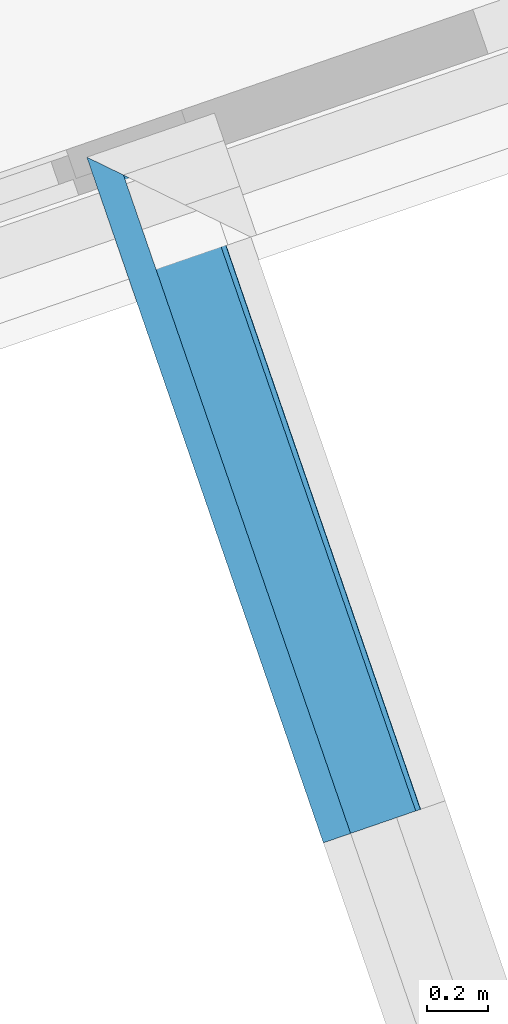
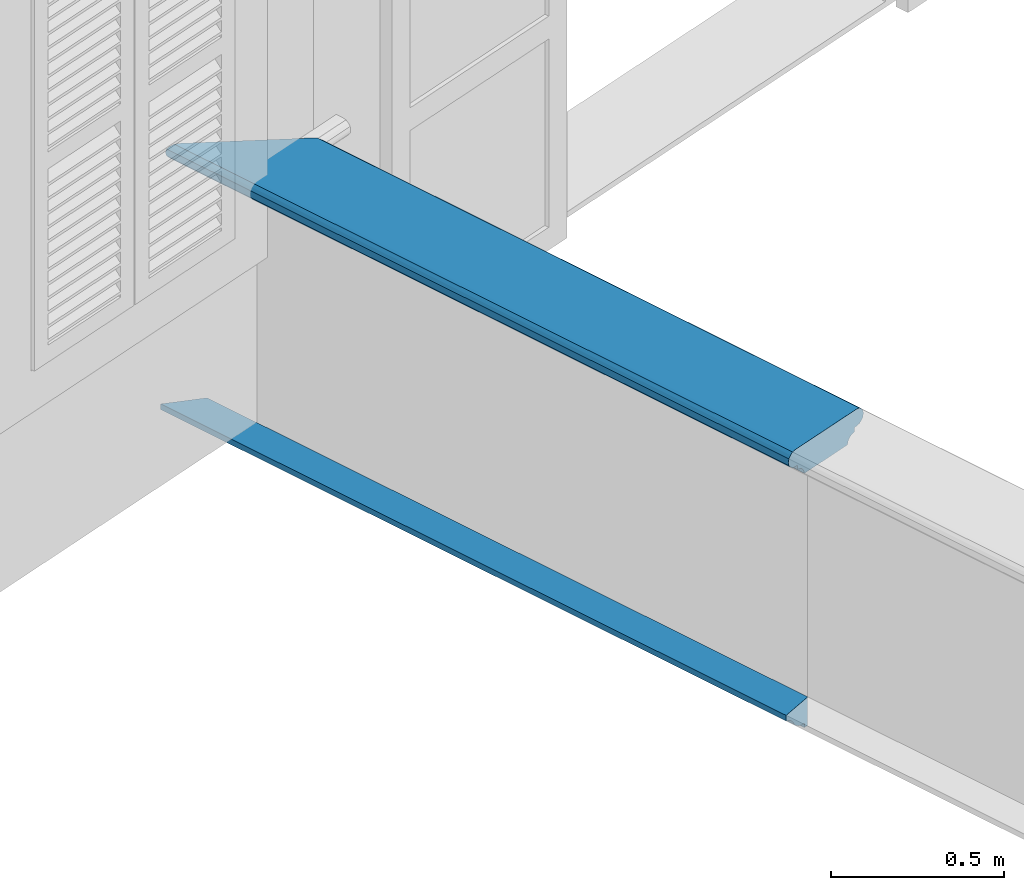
# One storey, part 12 of 16: 2 walls.
"""IFC4 building model written with IfcOpenShell, lengths in metres."""

import ifcopenshell
import ifcopenshell.guid

model = None  # the IFC model being written
_history = None  # IfcOwnerHistory: only IFC2X3 demands one
_inside = {}  # id of a spatial element -> (the spatial element, [elements in it])
_under = {}  # id of a project, library or spatial element -> (it, [spatial elements below it])
_declared = {}  # id of a project -> (the project, [libraries it declares])
_typed = {}  # id of a type object -> (the type object, [elements of that type])
_made_of = {}  # id of a material, layer set ... -> (it, [elements and type objects made of it])


def new_model(schema):
    """Start an empty IFC model of exactly this schema.

    Asked for "IFC4X3", IfcOpenShell would pick the latest addendum, in which some entities
    have other attributes; the version numbers below select the first issue.
    IFC2X3 requires an IfcOwnerHistory on every rooted entity: one is made here for all.
    """
    global model, _history
    if schema == "IFC4X3":
        model = ifcopenshell.file(schema_version=(4, 3, 0, 0))
    else:
        model = ifcopenshell.file(schema=schema)
    _inside.clear()
    _under.clear()
    _declared.clear()
    _typed.clear()
    _made_of.clear()
    _history = None
    if model.schema == "IFC2X3":
        org = make("IfcOrganization", Name="unknown")
        user = make(
            "IfcPersonAndOrganization",
            ThePerson=make("IfcPerson", FamilyName="unknown"),
            TheOrganization=org,
        )
        app = make(
            "IfcApplication",
            ApplicationDeveloper=org,
            Version="unknown",
            ApplicationFullName="unknown",
            ApplicationIdentifier="unknown",
        )
        _history = make(
            "IfcOwnerHistory",
            OwningUser=user,
            OwningApplication=app,
            ChangeAction="ADDED",
            CreationDate=0,
        )
    return model


def make(cls, **values):
    """One entity of the class cls with the attributes given. An attribute that is None is left unset."""
    return model.create_entity(
        cls, **{name: value for name, value in values.items() if value is not None}
    )


def rooted(cls, **values):
    """An entity with a GlobalId (a new one), such as an element, a storey or a relation."""
    return make(cls, GlobalId=ifcopenshell.guid.new(), OwnerHistory=_history, **values)


def si_unit(unit_type, name, prefix=None):
    """IfcSIUnit, for example si_unit("LENGTHUNIT", "METRE", prefix="MILLI")."""
    return make("IfcSIUnit", UnitType=unit_type, Prefix=prefix, Name=name)


def assignment(units):
    """IfcUnitAssignment: the units of a project."""
    return None if units is None else make("IfcUnitAssignment", Units=units)


def point(xyz):
    """IfcCartesianPoint."""
    return None if xyz is None else make("IfcCartesianPoint", Coordinates=xyz)


def direction(xyz):
    """IfcDirection."""
    return None if xyz is None else make("IfcDirection", DirectionRatios=xyz)


def frame(location, z_axis=None, x_axis=None):
    """IfcAxis2Placement3D, a coordinate frame: its origin and axes. An axis left out is left unset."""
    return make(
        "IfcAxis2Placement3D",
        Location=point(location),
        Axis=direction(z_axis),
        RefDirection=direction(x_axis),
    )


def origin_with_axes():
    """The frame at (0, 0, 0) with the z axis (0, 0, 1) and the x axis (1, 0, 0) written out."""
    return frame((0.0, 0.0, 0.0), z_axis=(0.0, 0.0, 1.0), x_axis=(1.0, 0.0, 0.0))


def place(relative_to, where):
    """IfcLocalPlacement: puts the frame where relative to a parent placement (None: the world)."""
    return make(
        "IfcLocalPlacement", PlacementRelTo=relative_to, RelativePlacement=where
    )


def context(
    kind, dimensions, precision=None, world=None, true_north=None, identifier=None
):
    """IfcGeometricRepresentationContext, for example the 3D "Model" context."""
    return make(
        "IfcGeometricRepresentationContext",
        ContextIdentifier=identifier,
        ContextType=kind,
        CoordinateSpaceDimension=dimensions,
        Precision=precision,
        WorldCoordinateSystem=world,
        TrueNorth=true_north,
    )


def subcontext(parent, identifier, kind, view, scale=None):
    """IfcGeometricRepresentationSubContext, for example "Body" below "Model"."""
    return make(
        "IfcGeometricRepresentationSubContext",
        ContextIdentifier=identifier,
        ContextType=kind,
        ParentContext=parent,
        TargetScale=scale,
        TargetView=view,
    )


def project(units=None, contexts=None):
    """IfcProject with its units and contexts."""
    return rooted(
        "IfcProject",
        Name="project",
        RepresentationContexts=contexts,
        UnitsInContext=assignment(units),
    )


def spatial(cls, under=None, at=None, **own):
    """A site, building, storey or space (cls), placed at a placement, below another one or the project."""
    s = rooted(cls, ObjectPlacement=at, **own)
    if under is not None:
        _under.setdefault(under.id(), (under, []))[1].append(s)
    return s


def polyline(points):
    """IfcPolyline through the points."""
    return make("IfcPolyline", Points=[point(p) for p in points])


def outline(outer, holes=None, kind="AREA"):
    """IfcArbitraryClosedProfileDef: a profile drawn as a closed curve; with holes, ...WithVoids."""
    if holes is None:
        return make("IfcArbitraryClosedProfileDef", ProfileType=kind, OuterCurve=outer)
    return make(
        "IfcArbitraryProfileDefWithVoids",
        ProfileType=kind,
        OuterCurve=outer,
        InnerCurves=holes,
    )


def extrude(swept, where, along, depth):
    """IfcExtrudedAreaSolid: the profile swept, set in the frame where, extruded along a direction by depth."""
    return make(
        "IfcExtrudedAreaSolid",
        SweptArea=swept,
        Position=where,
        ExtrudedDirection=direction(along),
        Depth=depth,
    )


def clip(a, b, op="DIFFERENCE"):
    """IfcBooleanClippingResult: the solid a cut by the half space b."""
    return make(
        "IfcBooleanClippingResult", Operator=op, FirstOperand=a, SecondOperand=b
    )


def halfspace(plane, agree):
    """IfcHalfSpaceSolid: all space on one side of the plane z = 0 of the frame plane."""
    return make(
        "IfcHalfSpaceSolid",
        BaseSurface=make("IfcPlane", Position=plane),
        AgreementFlag=agree,
    )


def shape(context_of_items, identifier, shape_type, items):
    """IfcShapeRepresentation: the items that make up one representation, for example the "Body"."""
    return make(
        "IfcShapeRepresentation",
        ContextOfItems=context_of_items,
        RepresentationIdentifier=identifier,
        RepresentationType=shape_type,
        Items=items,
    )


def material_profile(
    of_material, cross_section, Name=None, Category=None, Priority=None
):
    """IfcMaterialProfile: a cross section and its material."""
    return make(
        "IfcMaterialProfile",
        Name=Name,
        Material=of_material,
        Profile=cross_section,
        Priority=Priority,
        Category=Category,
    )


def profile_set(profiles, Name=None, composite=None):
    """IfcMaterialProfileSet."""
    return make(
        "IfcMaterialProfileSet",
        Name=Name,
        MaterialProfiles=profiles,
        CompositeProfile=composite,
    )


def profile_usage(for_profile_set, cardinal=None, extent=None):
    """IfcMaterialProfileSetUsage: how a profile set lies along its element."""
    return make(
        "IfcMaterialProfileSetUsage",
        ForProfileSet=for_profile_set,
        CardinalPoint=cardinal,
        ReferenceExtent=extent,
    )


def made_of(thing, what):
    """Note that an element or type object is made of a material, layer set ...; save() writes the relation."""
    if what is not None:
        _made_of.setdefault(what.id(), (what, []))[1].append(thing)
    return thing


def type_object(cls, material=None, **own):
    """A type object (cls), such as IfcWallType, which elements share."""
    return made_of(rooted(cls, **own), material)


def element(
    cls,
    number,
    at=None,
    inside=None,
    cuts=None,
    type_object=None,
    material=None,
    context=None,
    identifier="Body",
    shape_type=None,
    held_by="IfcProductDefinitionShape",
    body=None,
    shapes=None,
    **own,
):
    """One element of the class cls, such as IfcWall. Its Tag is "e" and its number.

    at: its placement. inside: the storey or other place that contains it. cuts: it is an
    opening in that element (IfcRelVoidsElement). A single representation is given by context,
    identifier, shape_type and body (its items); several are given by shapes. held_by: the class
    of the entity that holds the representations. save() writes the other relations.
    """
    e = rooted(cls, Tag="e%d" % number, ObjectPlacement=at, **own)
    if body is not None:
        shapes = [shape(context, identifier, shape_type, body)]
    if shapes is not None:
        e.Representation = make(held_by, Representations=shapes)
    if inside is not None:
        _inside.setdefault(inside.id(), (inside, []))[1].append(e)
    if cuts is not None:
        rooted(
            "IfcRelVoidsElement", RelatingBuildingElement=cuts, RelatedOpeningElement=e
        )
    if type_object is not None:
        _typed.setdefault(type_object.id(), (type_object, []))[1].append(e)
    return made_of(e, material)


def aggregate(whole, parts):
    """IfcRelAggregates: a whole, such as a stair, and the parts it consists of."""
    return rooted("IfcRelAggregates", RelatingObject=whole, RelatedObjects=parts)


def save(model, path):
    """Write the relations noted so far, then the file.

    IfcRelAggregates (storeys below a building ...), IfcRelContainedInSpatialStructure (elements
    in a storey), IfcRelDefinesByType, IfcRelAssociatesMaterial and IfcRelDeclares: one each for
    every whole, place, type object, material and project.
    """
    for whole, parts in _under.values():
        aggregate(whole, parts)
    for where, things in _inside.values():
        rooted(
            "IfcRelContainedInSpatialStructure",
            RelatedElements=things,
            RelatingStructure=where,
        )
    for kind, things in _typed.values():
        rooted("IfcRelDefinesByType", RelatedObjects=things, RelatingType=kind)
    for what, things in _made_of.values():
        rooted("IfcRelAssociatesMaterial", RelatedObjects=things, RelatingMaterial=what)
    for by, libraries in _declared.values():
        rooted("IfcRelDeclares", RelatingContext=by, RelatedDefinitions=libraries)
    model.write(path)


model = new_model("IFC4")

# Units and contexts
model_context = context("Model", 3, world=origin_with_axes())
body_context = subcontext(model_context, "Body", "Model", "MODEL_VIEW")
ifc_project = project(units=[si_unit("PLANEANGLEUNIT", "RADIAN"), si_unit("MASSUNIT", "GRAM", prefix="KILO"), si_unit("FORCEUNIT", "NEWTON", prefix="KILO"), si_unit("LENGTHUNIT", "METRE"), si_unit("AREAUNIT", "SQUARE_METRE"), si_unit("VOLUMEUNIT", "CUBIC_METRE")], contexts=[model_context, model_context])

# Site, building, storey
site_placement = place(None, origin_with_axes())
site = spatial("IfcSite", under=ifc_project, at=site_placement, Name="Site plot-8", CompositionType="ELEMENT")
building_placement = place(None, origin_with_axes())
building = spatial("IfcBuilding", under=site, at=building_placement, Name="Building plot-8", CompositionType="ELEMENT")
storey_placement = place(None, frame((0.0, 0.0, 3.0), z_axis=(0.0, 0.0, 1.0), x_axis=(1.0, 0.0, 0.0)))
storey = spatial("IfcBuildingStorey", under=building, at=storey_placement, Name="plot-8 1", CompositionType="ELEMENT", Elevation=3.0)

# Walls
ifc_material_profile_1 = material_profile(None, outline(polyline([(0.265, 0.795), (0.268, 0.807), (0.274, 0.816), (0.283, 0.822), (0.295, 0.825), (0.295, 0.84), (0.305, 0.84), (0.317, 0.842), (0.326, 0.849), (0.333, 0.858), (0.335, 0.87), (0.333, 0.882), (0.326, 0.891), (0.317, 0.898), (0.305, 0.9), (0.035, 0.9), (0.023, 0.898), (0.014, 0.891), (0.007, 0.882), (0.005, 0.87), (0.007, 0.858), (0.014, 0.849), (0.023, 0.842), (0.035, 0.84), (0.045, 0.84), (0.045, 0.825), (0.057, 0.822), (0.066, 0.816), (0.072, 0.807), (0.075, 0.795), (0.265, 0.795)])))
ifc_profile_set_1 = profile_set([ifc_material_profile_1])
ifc_profile_usage_1 = profile_usage(ifc_profile_set_1)
wall_type_1 = type_object("IfcWallType", Name="parapet internal_1", PredefinedType="PARAPET", material=ifc_profile_set_1)
wall_1_placement = place(storey_placement, frame((-7.26873878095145, 18.5098429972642, 0.0), z_axis=(-0.326112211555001, 0.94533106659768, 0.0), x_axis=(-0.94533106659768, -0.326112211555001, 0.0)))
element("IfcWall", 1, at=wall_1_placement, inside=storey, type_object=wall_type_1, material=ifc_profile_usage_1, Name="parapet internal_1", context=body_context, shape_type="Clipping", body=[
    clip(clip(extrude(outline(polyline([(0.265, 0.795), (0.268, 0.807), (0.274, 0.816), (0.283, 0.822), (0.295, 0.825), (0.295, 0.84), (0.305, 0.84), (0.317, 0.842), (0.326, 0.849), (0.333, 0.858), (0.335, 0.87), (0.333, 0.882), (0.326, 0.891), (0.317, 0.898), (0.305, 0.9), (0.035, 0.9), (0.023, 0.898), (0.014, 0.891), (0.007, 0.882), (0.005, 0.87), (0.007, 0.858), (0.014, 0.849), (0.023, 0.842), (0.035, 0.84), (0.045, 0.84), (0.045, 0.825), (0.057, 0.822), (0.066, 0.816), (0.072, 0.807), (0.075, 0.795), (0.265, 0.795)])), origin_with_axes(), (0.0, 0.0, 1.0), 4.04487631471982), halfspace(frame((0.0, 0.0, 3.04487631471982), z_axis=(0.707106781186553, 0.0, -0.707106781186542), x_axis=(0.0, 1.0, 0.0)), True)), halfspace(frame((0.0, 0.0, 1.0), z_axis=(1.71512449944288e-15, 0.0, -1.0), x_axis=(0.0, 1.0, 0.0)), False)),
])
ifc_material_profile_2 = material_profile(None, outline(polyline([(0.25, -0.1), (0.265, -0.1), (0.265, -0.085), (0.278, -0.084), (0.289, -0.081), (0.301, -0.074), (0.309, -0.065), (0.315, -0.055), (0.324, -0.044), (0.334, -0.038), (0.345, -0.035), (0.345, -0.015), (0.25, 0.0), (0.25, -0.1)])))
ifc_profile_set_2 = profile_set([ifc_material_profile_2])
ifc_profile_usage_2 = profile_usage(ifc_profile_set_2)
wall_type_2 = type_object("IfcWallType", Name="parapet internal_2", PredefinedType="PARAPET", material=ifc_profile_set_2)
wall_2_placement = place(storey_placement, frame((-7.26873878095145, 18.5098429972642, 0.0), z_axis=(-0.326112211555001, 0.94533106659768, 0.0), x_axis=(-0.94533106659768, -0.326112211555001, 0.0)))
element("IfcWall", 2, at=wall_2_placement, inside=storey, type_object=wall_type_2, material=ifc_profile_usage_2, Name="parapet internal_2", context=body_context, shape_type="Clipping", body=[
    clip(clip(extrude(outline(polyline([(0.25, -0.1), (0.265, -0.1), (0.265, -0.085), (0.278, -0.084), (0.289, -0.081), (0.301, -0.074), (0.309, -0.065), (0.315, -0.055), (0.324, -0.044), (0.334, -0.038), (0.345, -0.035), (0.345, -0.015), (0.25, 0.0), (0.25, -0.1)])), origin_with_axes(), (0.0, 0.0, 1.0), 4.04487631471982), halfspace(frame((0.0, 0.0, 3.04487631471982), z_axis=(0.707106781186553, 0.0, -0.707106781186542), x_axis=(0.0, 1.0, 0.0)), True)), halfspace(frame((0.0, 0.0, 1.0), z_axis=(1.71512449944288e-15, 0.0, -1.0), x_axis=(0.0, 1.0, 0.0)), False)),
])

save(model, "model.ifc")
